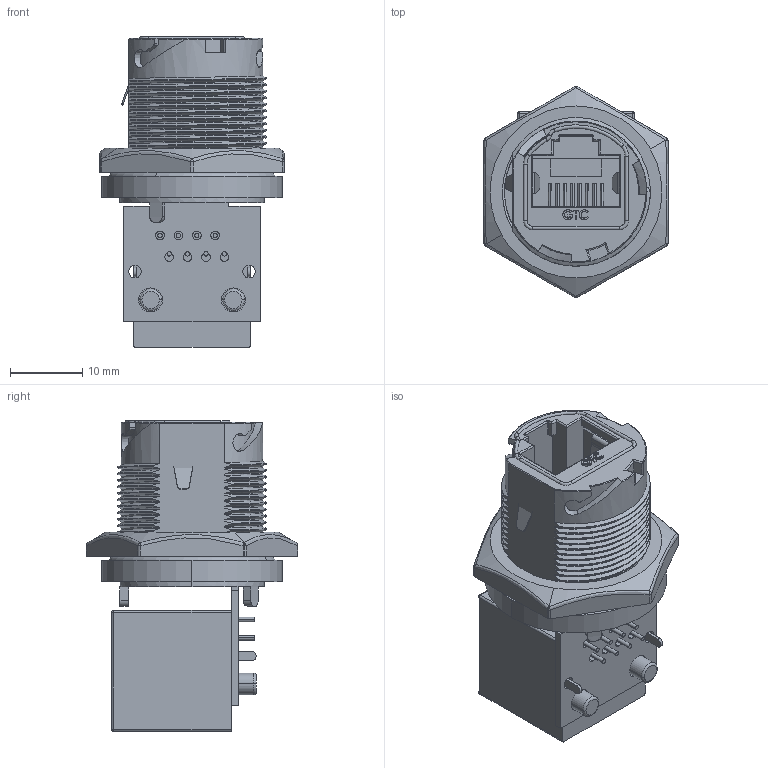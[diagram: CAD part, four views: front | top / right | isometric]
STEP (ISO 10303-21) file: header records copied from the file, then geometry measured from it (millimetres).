
FILE_DESCRIPTION (( 'STEP AP203' ), '1' );
FILE_NAME ('GT225200-40.STEP', '2011-09-07T06:50:45', ( 'RD-07' ), ( '' ), 'SwSTEP 2.0', 'SolidWorks 2010', '' );
FILE_SCHEMA (( 'CONFIG_CONTROL_DESIGN' ));
Length unit declared in the file: millimetre
Products named in the file (15): GT225200-40; pin2_Default; 60225-26101; 60125-26101_Default; 59225-01004_Default; 60225-2ZA01_A1_Default; 83001-F3105_Default; 83001-M0104(BASE); pin1_Default; 67225-00110_Default; 66225-00010_Default; 58225-22002_Default; 58125-22001_Default; EXPOXY_Default; 83001-F3309_Default
Assembly tree (22 placements, depth 3):
  GT225200-40
    EXPOXY_Default
    59225-01004_Default
    83001-F3105_Default
      pin1_Default  x6
      pin2_Default  x4
      83001-M0104(BASE)
    60225-2ZA01_A1_Default
    58225-22002_Default
    83001-F3309_Default
    67225-00110_Default
    58125-22001_Default
    60225-26101
    66225-00010_Default
    60125-26101_Default
Bounding box: 25.4 x 29.17 x 42.9 mm (x, y, z)
Volume: 8667.8 mm3; surface area: 12058.8 mm2
Topology: 21 solids, 21 shells, 915 faces, 2368 edges, 1486 vertices
Faces by surface type: plane 422, cylinder 286, bspline 95, torus 90, sphere 12, cone 10
Entity records: 37130 total; most frequent: CARTESIAN_POINT 15881, ORIENTED_EDGE 4300, DIRECTION 3750, EDGE_CURVE 2150, VERTEX_POINT 1374, VECTOR 1304, LINE 1304, AXIS2_PLACEMENT_3D 1223
